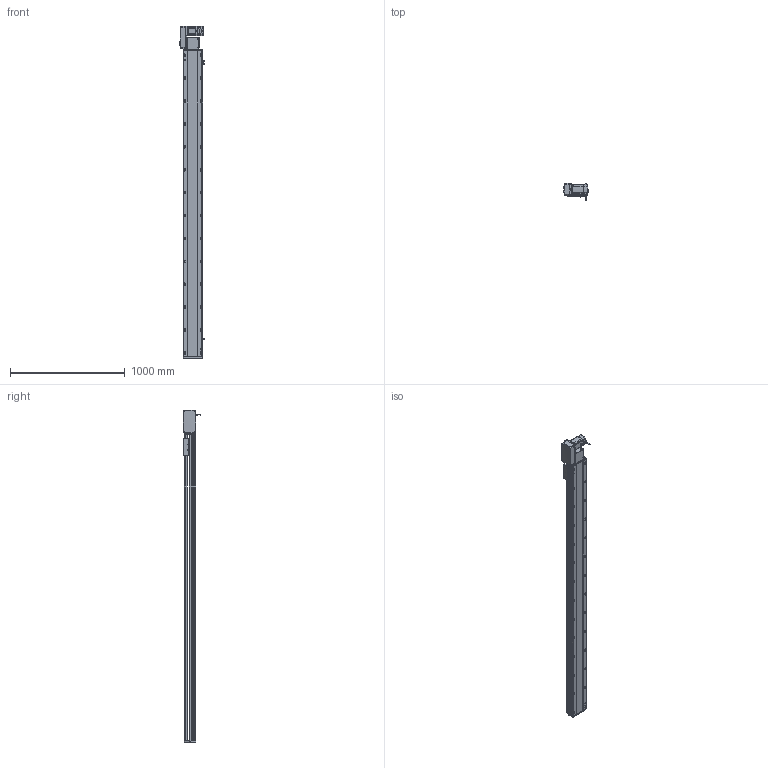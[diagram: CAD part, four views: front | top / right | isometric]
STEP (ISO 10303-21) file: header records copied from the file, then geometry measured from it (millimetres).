
FILE_DESCRIPTION (( 'STEP AP214' ), '1' );
FILE_NAME ('RTB17S-XX-2400-L-M75-C4.STEP', '2025-12-12T00:21:15', ( '' ), ( '' ), 'SwSTEP 2.0', 'SolidWorks 2018', '' );
FILE_SCHEMA (( 'AUTOMOTIVE_DESIGN' ));
Length unit declared in the file: millimetre
Products named in the file (15): RMP17S-L-014-T20-P75--々湍釱^RTB17S-L-々湍釱蚾饜-750W_RTB17S-XX-XX-L-M75-C4; RTB22S-GY-005P^RTB17S-L-々湍釱蚾饜-750W_RTB17S-XX-XX-L-M75-C4; RTB22S-GY-008-M75--萇儂啣^RTB17S-L-々湍釱蚾饜-750W_RTB17S-XX-XX-L-M75-C4; RTB17S-賑釱^RTB17S-XX-XX-L-M75-C4; RTB22S-GY-018P^RTB17S-L-々湍釱蚾饜-750W_RTB17S-XX-XX-L-M75-C4; RTB17S-L-々湍釱蚾饜-750W^RTB17S-XX-XX-L-M75-C4; RTB22S-GY-017P^RTB17S-L-々湍釱蚾饜-750W_RTB17S-XX-XX-L-M75-C4; RTH13-BL-012覜茼え俋离^RTB17S-賑釱_RTB17S-XX-XX-L-M75-C4; 750W萇儂^RTB17S-XX-XX-L-M75-C4; EE672^RTB17S-XX-XX-L-M75-C4; RTB17S-L-004-賑釱^RTB17S-賑釱_RTB17S-XX-XX-L-M75-C4; RTB17S-L-007奻裔^RTB17S-XX-XX-L-M75-C4; RTB17S-L-001-耜醱啣^RTB17S-XX-XX-L-M75-C4; RTB17-R-011菁釱^RTB17S-XX-XX-L-M75-C4; RTB17S-XX-2400-L-M75-C4
Assembly tree (17 placements, depth 3):
  RTB17S-XX-2400-L-M75-C4
    RTB17-R-011菁釱^RTB17S-XX-XX-L-M75-C4
    EE672^RTB17S-XX-XX-L-M75-C4  x3
    RTB17S-L-001-耜醱啣^RTB17S-XX-XX-L-M75-C4
    RTB17S-賑釱^RTB17S-XX-XX-L-M75-C4
      RTB17S-L-004-賑釱^RTB17S-賑釱_RTB17S-XX-XX-L-M75-C4
      RTH13-BL-012覜茼え俋离^RTB17S-賑釱_RTB17S-XX-XX-L-M75-C4
    RTB17S-L-007奻裔^RTB17S-XX-XX-L-M75-C4
    750W萇儂^RTB17S-XX-XX-L-M75-C4
    RTB17S-L-々湍釱蚾饜-750W^RTB17S-XX-XX-L-M75-C4
      RMP17S-L-014-T20-P75--々湍釱^RTB17S-L-々湍釱蚾饜-750W_RTB17S-XX-XX-L-M75-C4
      RTB22S-GY-005P^RTB17S-L-々湍釱蚾饜-750W_RTB17S-XX-XX-L-M75-C4
      RTB22S-GY-017P^RTB17S-L-々湍釱蚾饜-750W_RTB17S-XX-XX-L-M75-C4  x2
      RTB22S-GY-008-M75--萇儂啣^RTB17S-L-々湍釱蚾饜-750W_RTB17S-XX-XX-L-M75-C4
      RTB22S-GY-018P^RTB17S-L-々湍釱蚾饜-750W_RTB17S-XX-XX-L-M75-C4
Bounding box: 210.4 x 152.7 x 2899 mm (x, y, z)
Volume: 20955382.6 mm3; surface area: 3789680.6 mm2
Topology: 17 solids, 17 shells, 2201 faces, 6160 edges, 3986 vertices
Faces by surface type: plane 984, cylinder 801, bspline 294, cone 110, sphere 8, torus 4
Entity records: 63478 total; most frequent: CARTESIAN_POINT 18824, ORIENTED_EDGE 9164, DIRECTION 8492, EDGE_CURVE 4582, AXIS2_PLACEMENT_3D 3006, VERTEX_POINT 2990, LINE 2480, VECTOR 2480
